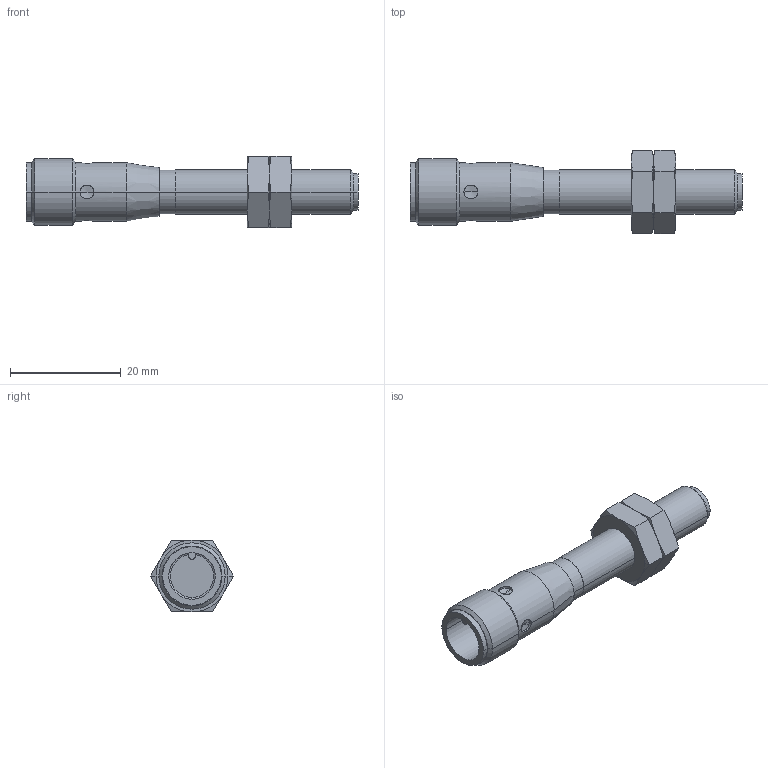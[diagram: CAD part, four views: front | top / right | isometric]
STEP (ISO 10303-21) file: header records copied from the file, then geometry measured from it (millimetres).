
FILE_DESCRIPTION( ( '' ), '1' );
FILE_NAME( '//expscmdclustefs.cadenas.external/client_exchange/iodir/jobs/output/wkb39657090_no0/STEP/iec200_2_03_56fa68aab0d912ba39a93ed9979b71de.stp', '2011-12-01T07:38:49', ( '' ), ( '' ), ' ', ' ', ' ' );
FILE_SCHEMA( ( 'CONFIG_CONTROL_DESIGN' ) );
Length unit declared in the file: millimetre
Products named in the file (3): 1; 2; 3
Bounding box: 60 x 15.01 x 13 mm (x, y, z)
Volume: 4368.6 mm3; surface area: 3072.9 mm2
Topology: 3 solids, 3 shells, 112 faces, 250 edges, 144 vertices
Faces by surface type: cone 56, cylinder 27, plane 27, torus 2
Entity records: 3232 total; most frequent: CARTESIAN_POINT 755, DIRECTION 510, ORIENTED_EDGE 484, EDGE_CURVE 242, AXIS2_PLACEMENT_3D 215, VERTEX_POINT 144, EDGE_LOOP 124, ADVANCED_FACE 112
